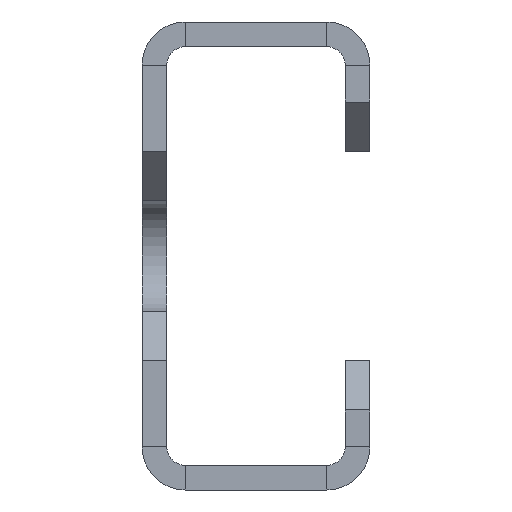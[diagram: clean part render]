
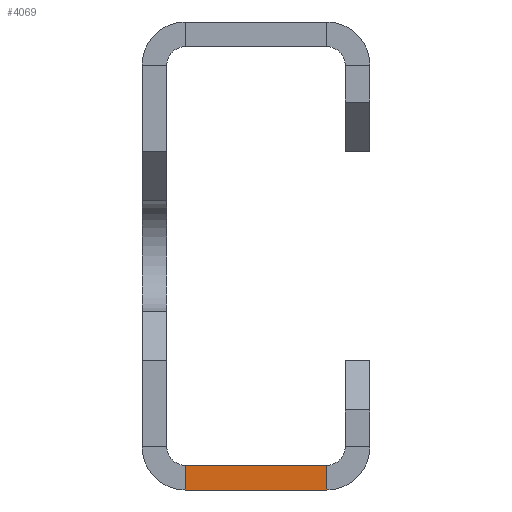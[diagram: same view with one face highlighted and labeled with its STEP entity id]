
A CAD part, front view. The second image highlights one B-rep face of the part: STEP entity #4069.
In plain terms, the highlighted planar face has unit normal (0, -1, 0).
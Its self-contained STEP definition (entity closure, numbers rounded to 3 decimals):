
#531 = VECTOR ( 'NONE', #989, 1000. ) ;
#538 = VECTOR ( 'NONE', #968, 1000. ) ;
#542 = VECTOR ( 'NONE', #959, 1000. ) ;
#547 = VECTOR ( 'NONE', #944, 1000. ) ;
#944 = DIRECTION ( 'NONE',  ( 0., 0., 1. ) ) ;
#945 = CARTESIAN_POINT ( 'NONE',  ( 15., -482.25, -19. ) ) ;
#946 = LINE ( 'NONE', #945, #547 ) ;
#959 = DIRECTION ( 'NONE',  ( -1., 0., 0. ) ) ;
#960 = CARTESIAN_POINT ( 'NONE',  ( 0., -482.25, -19. ) ) ;
#961 = LINE ( 'NONE', #960, #542 ) ;
#968 = DIRECTION ( 'NONE',  ( -1., 0., 0. ) ) ;
#969 = CARTESIAN_POINT ( 'NONE',  ( 0., -482.25, -17. ) ) ;
#970 = LINE ( 'NONE', #969, #538 ) ;
#989 = DIRECTION ( 'NONE',  ( 0., 0., -1. ) ) ;
#990 = CARTESIAN_POINT ( 'NONE',  ( 3.5, -482.25, -17. ) ) ;
#991 = LINE ( 'NONE', #990, #531 ) ;
#1570 = CARTESIAN_POINT ( 'NONE',  ( 3.5, -482.25, -19. ) ) ;
#1595 = CARTESIAN_POINT ( 'NONE',  ( 15., -482.25, -19. ) ) ;
#1619 = CARTESIAN_POINT ( 'NONE',  ( 15., -482.25, -17. ) ) ;
#1880 = FACE_OUTER_BOUND ( 'NONE', #2727, .T. ) ;
#1881 = AXIS2_PLACEMENT_3D ( 'NONE', #1947, #1946, #1944 ) ;
#1944 = DIRECTION ( 'NONE',  ( 0., 0., -1. ) ) ;
#1946 = DIRECTION ( 'NONE',  ( 0., -1., 0. ) ) ;
#1947 = CARTESIAN_POINT ( 'NONE',  ( 16.5, -482.25, -15.5 ) ) ;
#1948 = PLANE ( 'NONE',  #1881 ) ;
#2030 = CARTESIAN_POINT ( 'NONE',  ( 3.5, -482.25, -17. ) ) ;
#2225 = ORIENTED_EDGE ( 'NONE', *, *, #3097, .F. ) ;
#2226 = ORIENTED_EDGE ( 'NONE', *, *, #3087, .T. ) ;
#2228 = ORIENTED_EDGE ( 'NONE', *, *, #3102, .T. ) ;
#2230 = ORIENTED_EDGE ( 'NONE', *, *, #3094, .T. ) ;
#2499 = VERTEX_POINT ( 'NONE', #2030 ) ;
#2664 = VERTEX_POINT ( 'NONE', #1619 ) ;
#2687 = VERTEX_POINT ( 'NONE', #1595 ) ;
#2712 = VERTEX_POINT ( 'NONE', #1570 ) ;
#2727 = EDGE_LOOP ( 'NONE', ( #2225, #2228, #2230, #2226 ) ) ;
#3087 = EDGE_CURVE ( 'NONE', #2499, #2712, #991, .T. ) ;
#3094 = EDGE_CURVE ( 'NONE', #2664, #2499, #970, .T. ) ;
#3097 = EDGE_CURVE ( 'NONE', #2687, #2712, #961, .T. ) ;
#3102 = EDGE_CURVE ( 'NONE', #2687, #2664, #946, .T. ) ;
#4069 = ADVANCED_FACE ( 'NONE', ( #1880 ), #1948, .T. ) ;
